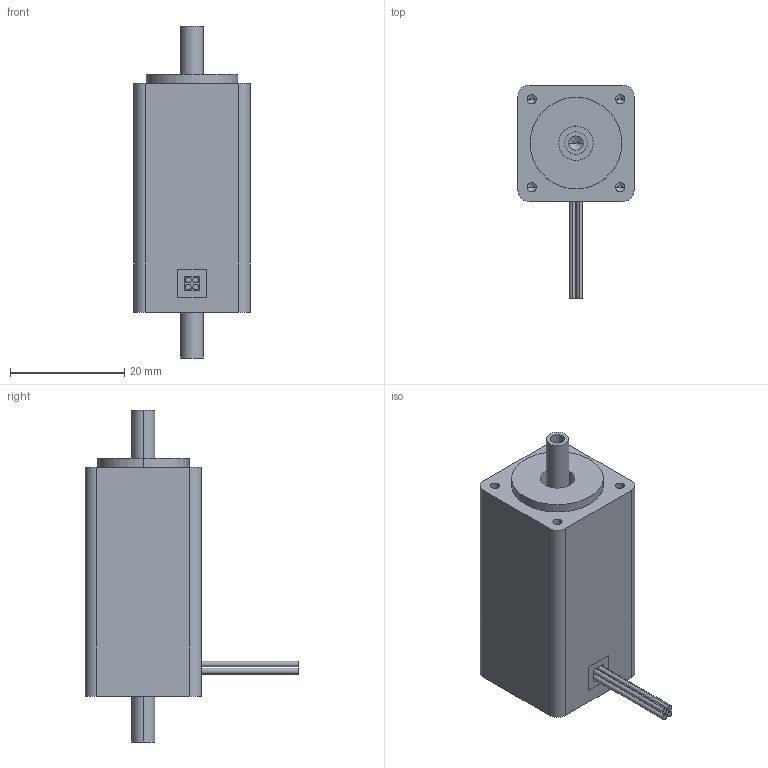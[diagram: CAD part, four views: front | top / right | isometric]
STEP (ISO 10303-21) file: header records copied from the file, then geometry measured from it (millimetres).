
FILE_DESCRIPTION (( 'STEP AP214' ), '1' );
FILE_NAME ('EXMK224-P5B-C4-O.STEP', '2020-10-19T06:26:54', ( 'mu' ), ( '' ), 'SwSTEP 2.0', 'SolidWorks 2017', '' );
FILE_SCHEMA (( 'AUTOMOTIVE_DESIGN' ));
Length unit declared in the file: millimetre
Products named in the file (1): EXMK224-P5B-C4-O
Bounding box: 20.3 x 37.3 x 58 mm (x, y, z)
Volume: 16620.6 mm3; surface area: 5197.2 mm2
Topology: 1 solids, 1 shells, 76 faces, 174 edges, 106 vertices
Faces by surface type: cylinder 34, plane 30, cone 12
Entity records: 2518 total; most frequent: DIRECTION 384, CARTESIAN_POINT 345, ORIENTED_EDGE 324, EDGE_CURVE 162, AXIS2_PLACEMENT_3D 145, VERTEX_POINT 106, VECTOR 94, EDGE_LOOP 94
